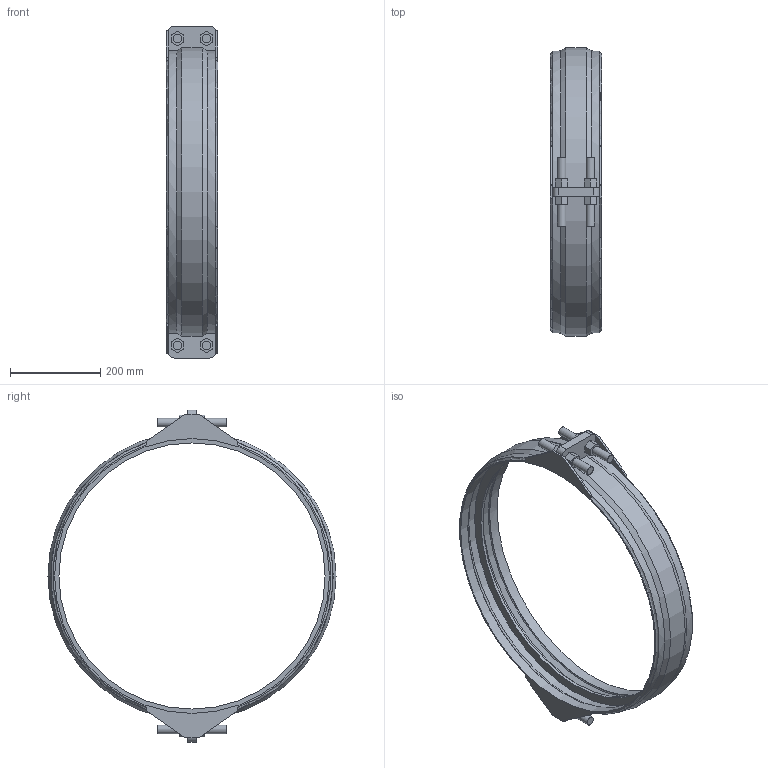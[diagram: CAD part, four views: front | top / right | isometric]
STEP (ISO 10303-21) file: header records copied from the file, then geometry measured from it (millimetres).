
FILE_DESCRIPTION(/* description */ ('VIC SS RESTRAINED COUPLING STYLE 234S (FLEX) (BRS)','CAx-IF Rec.Pracs.---Representation and Presentation of Product Manufacturing Information (PMI)---4.0---2014-10-13'),/* implementation_level */ '2;1');
FILE_NAME(/* name */ 'C:\Users\kkamble\AppData\Roaming\Autodesk\ApplicationPlugins\Back Up\Victaulic_VBSP_Coupling Flexible Restrained_Style 234S (BRS)\Victaulic_VBSP_Coupling Flexible Restrained_Style 234S (BRS)_100psi_24 (600).stp',/* time_stamp */ '2020-09-22T18:41:08+05:00',/* author */ ('Vjadhav'),/* organization */ ('Victaulic'),/* preprocessor_version */ 'ST-DEVELOPER v17.2',/* originating_system */ 'Autodesk Inventor 2019',/* authorisation */ '');
FILE_SCHEMA (('AP242_MANAGED_MODEL_BASED_3D_ENGINEERING_MIM_LF { 1 0 10303 442 1 1 4 }'));
Length unit declared in the file: inch
Products named in the file (1): Style_234S_Type_2_100psi-24.0
Bounding box: 114.3 x 639.31 x 736.6 mm (x, y, z)
Volume: 2119307 mm3; surface area: 671991.7 mm2
Topology: 1 solids, 1 shells, 151 faces, 389 edges, 260 vertices
Faces by surface type: plane 100, cylinder 39, torus 6, cone 6
Full cylindrical faces by diameter (mm): 19.05 x8, 590.55 x1, 609.6 x2, 629.783 x2
Entity records: 5026 total; most frequent: CARTESIAN_POINT 970, DIRECTION 813, ORIENTED_EDGE 778, EDGE_CURVE 389, AXIS2_PLACEMENT_3D 275, LINE 263, VECTOR 263, VERTEX_POINT 260
